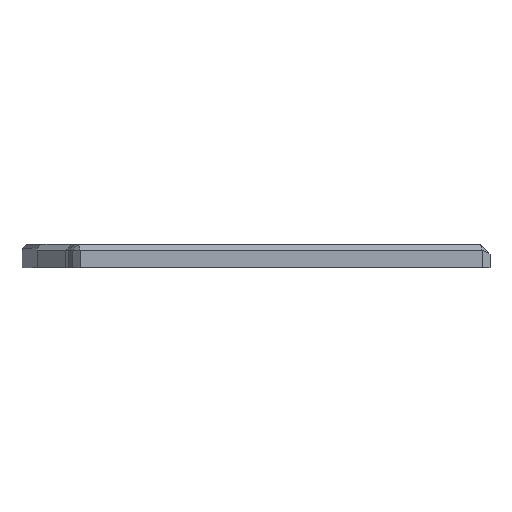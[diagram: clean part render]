
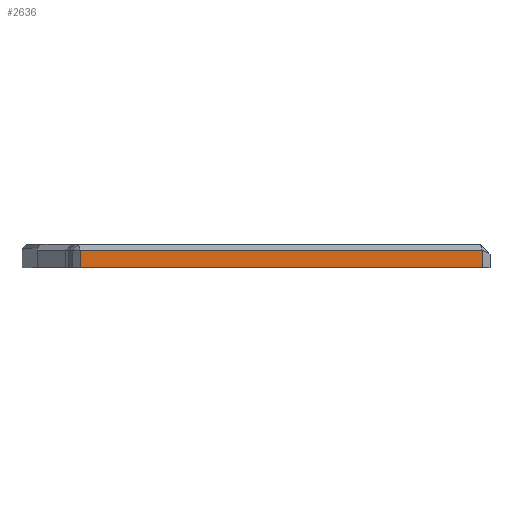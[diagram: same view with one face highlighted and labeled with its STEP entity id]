
A CAD part, left-side view. The second image highlights one B-rep face of the part: STEP entity #2636.
In plain terms, the highlighted planar face has unit normal (-1, 0, 0).
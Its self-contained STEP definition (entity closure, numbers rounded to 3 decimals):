
#91=FACE_OUTER_BOUND('',#231,.T.);
#231=EDGE_LOOP('',(#1853,#1854,#1855,#1856));
#431=LINE('',#3738,#796);
#434=LINE('',#3742,#799);
#437=LINE('',#3748,#802);
#453=LINE('',#3780,#818);
#796=VECTOR('',#3036,10.);
#799=VECTOR('',#3041,10.);
#802=VECTOR('',#3046,10.);
#818=VECTOR('',#3080,10.);
#1088=VERTEX_POINT('',#3589);
#1090=VERTEX_POINT('',#3594);
#1138=VERTEX_POINT('',#3736);
#1139=VERTEX_POINT('',#3744);
#1406=EDGE_CURVE('',#1138,#1090,#431,.T.);
#1409=EDGE_CURVE('',#1090,#1088,#434,.T.);
#1412=EDGE_CURVE('',#1088,#1139,#437,.T.);
#1428=EDGE_CURVE('',#1139,#1138,#453,.T.);
#1853=ORIENTED_EDGE('',*,*,#1412,.F.);
#1854=ORIENTED_EDGE('',*,*,#1409,.F.);
#1855=ORIENTED_EDGE('',*,*,#1406,.F.);
#1856=ORIENTED_EDGE('',*,*,#1428,.F.);
#2503=PLANE('',#2790);
#2636=ADVANCED_FACE('',(#91),#2503,.T.);
#2790=AXIS2_PLACEMENT_3D('',#3779,#3078,#3079);
#3036=DIRECTION('',(0.,0.,1.));
#3041=DIRECTION('',(0.,-1.,0.));
#3046=DIRECTION('',(0.,0.,-1.));
#3078=DIRECTION('center_axis',(-1.,0.,0.));
#3079=DIRECTION('ref_axis',(0.,1.,0.));
#3080=DIRECTION('',(0.,1.,0.));
#3589=CARTESIAN_POINT('',(-84.696,-60.781,85.));
#3594=CARTESIAN_POINT('',(-84.696,44.,85.));
#3736=CARTESIAN_POINT('',(-84.696,44.,80.5));
#3738=CARTESIAN_POINT('',(-84.696,44.,86.5));
#3742=CARTESIAN_POINT('',(-84.696,-32.297,85.));
#3744=CARTESIAN_POINT('',(-84.696,-60.781,80.5));
#3748=CARTESIAN_POINT('',(-84.696,-60.781,86.5));
#3779=CARTESIAN_POINT('Origin',(-84.696,-62.781,86.5));
#3780=CARTESIAN_POINT('',(-84.696,46.,80.5));
